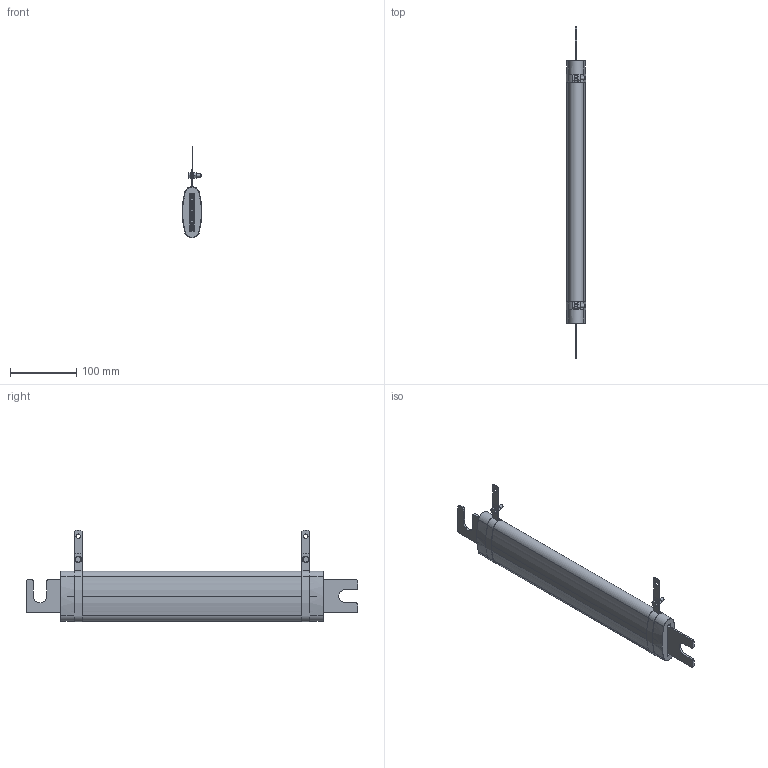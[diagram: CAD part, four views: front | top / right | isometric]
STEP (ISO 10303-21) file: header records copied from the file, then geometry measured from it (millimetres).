
FILE_DESCRIPTION(/* description */ (''),/* implementation_level */ '2;1');
FILE_NAME(/* name */ 'C:\_Vault\Dati\CATALOGO\RCE\RCE 300-1800\CE01K2.stp',/* time_stamp */ '2014-01-22T16:02:11+01:00',/* author */ ('stefano'),/* organization */ (''),/* preprocessor_version */ 'ST-DEVELOPER v15.2',/* originating_system */ 'Autodesk Inventor 2014',/* authorisation */ '');
FILE_SCHEMA (('AUTOMOTIVE_DESIGN { 1 0 10303 214 3 1 1 }'));
Length unit declared in the file: millimetre
Products named in the file (1): CE01K2
Bounding box: 29.17 x 500 x 137.95 mm (x, y, z)
Volume: 593816.4 mm3; surface area: 255681.8 mm2
Topology: 5 solids, 7 shells, 262 faces, 648 edges, 424 vertices
Faces by surface type: plane 140, cylinder 102, cone 20
Full cylindrical faces by diameter (mm): 3 x2, 5 x4, 5.3 x4, 6.5 x6, 6.88 x2, 10 x4
Entity records: 7951 total; most frequent: CARTESIAN_POINT 1393, DIRECTION 1344, ORIENTED_EDGE 1256, EDGE_CURVE 616, AXIS2_PLACEMENT_3D 513, VERTEX_POINT 418, EDGE_LOOP 336, LINE 318
